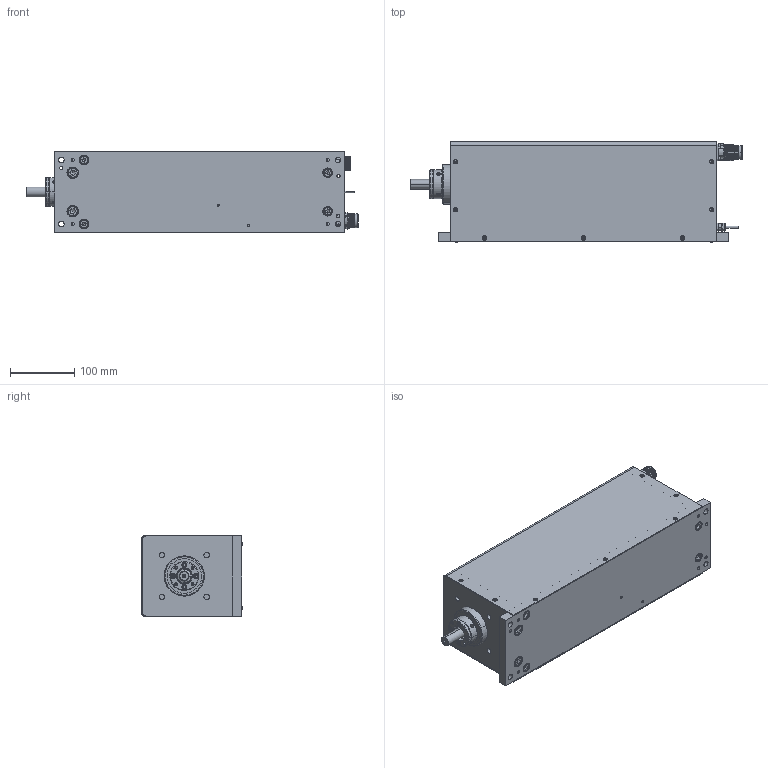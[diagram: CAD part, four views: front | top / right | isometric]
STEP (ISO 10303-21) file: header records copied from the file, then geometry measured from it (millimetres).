
FILE_DESCRIPTION (( 'STEP AP203' ), '1' );
FILE_NAME ('UD5M0300-060-NGNG2 Kundenmodell.STEP', '2020-04-29T06:50:58', ( '' ), ( '' ), 'SwSTEP 2.0', 'SolidWorks 2016', '' );
FILE_SCHEMA (( 'CONFIG_CONTROL_DESIGN' ));
Products named in the file (2): UD5M0300-060-NGNG2 Kundenmodell
Bounding box: 518.35 x 157.17 x 128 mm (x, y, z)
Volume: 1772743.7 mm3; surface area: 665425.4 mm2
Topology: 51 solids, 51 shells, 3092 faces, 7606 edges, 4656 vertices
Faces by surface type: plane 1153, cylinder 698, bspline 676, cone 475, torus 74, sphere 16
Entity records: 123751 total; most frequent: CARTESIAN_POINT 55418, ORIENTED_EDGE 14872, DIRECTION 12850, EDGE_CURVE 7436, VERTEX_POINT 4656, AXIS2_PLACEMENT_3D 4547, VECTOR 3756, LINE 3756
